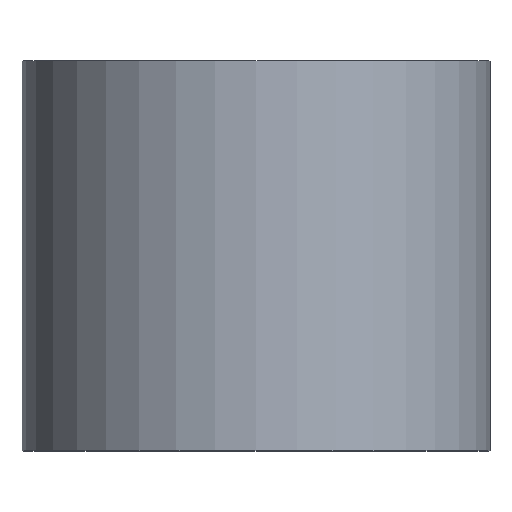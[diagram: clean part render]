
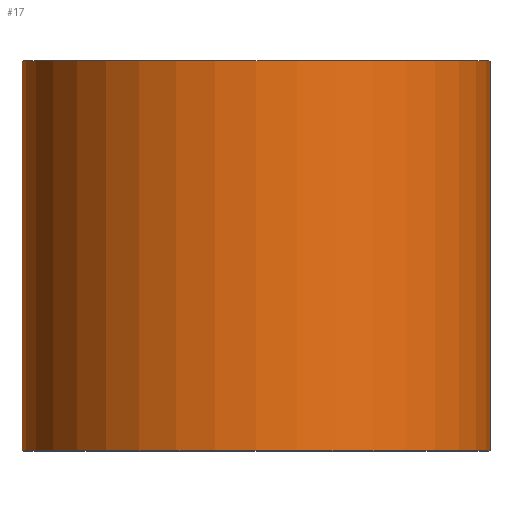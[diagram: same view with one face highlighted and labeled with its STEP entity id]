
A CAD part, top view. The second image highlights one B-rep face of the part: STEP entity #17.
In plain terms, the highlighted cylindrical face has radius 6 mm (diameter 12 mm), a partial arc.
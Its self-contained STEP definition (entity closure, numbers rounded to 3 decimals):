
#2 = CARTESIAN_POINT ( 'NONE',  ( 0., 10., 0. ) ) ;
#6 = ORIENTED_EDGE ( 'NONE', *, *, #196, .F. ) ;
#13 = ORIENTED_EDGE ( 'NONE', *, *, #263, .T. ) ;
#17 = ADVANCED_FACE ( 'NONE', ( #224 ), #292, .T. ) ;
#28 = DIRECTION ( 'NONE',  ( 0., 1., 0. ) ) ;
#31 = ORIENTED_EDGE ( 'NONE', *, *, #114, .F. ) ;
#37 = LINE ( 'NONE', #75, #134 ) ;
#47 = DIRECTION ( 'NONE',  ( 0., 1., 0. ) ) ;
#48 = CARTESIAN_POINT ( 'NONE',  ( 6., 0., 0. ) ) ;
#71 = EDGE_CURVE ( 'NONE', #131, #122, #37, .T. ) ;
#75 = CARTESIAN_POINT ( 'NONE',  ( 6., 0., 0. ) ) ;
#77 = ORIENTED_EDGE ( 'NONE', *, *, #71, .T. ) ;
#79 = EDGE_LOOP ( 'NONE', ( #13, #77, #6, #31 ) ) ;
#91 = AXIS2_PLACEMENT_3D ( 'NONE', #113, #184, #115 ) ;
#104 = DIRECTION ( 'NONE',  ( -1., 0., 0. ) ) ;
#113 = CARTESIAN_POINT ( 'NONE',  ( 0., 0., 0. ) ) ;
#114 = EDGE_CURVE ( 'NONE', #214, #259, #297, .T. ) ;
#115 = DIRECTION ( 'NONE',  ( -1., 0., 0. ) ) ;
#122 = VERTEX_POINT ( 'NONE', #177 ) ;
#124 = CARTESIAN_POINT ( 'NONE',  ( 0., 0., 0. ) ) ;
#131 = VERTEX_POINT ( 'NONE', #48 ) ;
#134 = VECTOR ( 'NONE', #28, 1000. ) ;
#141 = DIRECTION ( 'NONE',  ( 0., 1., 0. ) ) ;
#162 = VECTOR ( 'NONE', #202, 1000. ) ;
#177 = CARTESIAN_POINT ( 'NONE',  ( 6., 10., 0. ) ) ;
#179 = CARTESIAN_POINT ( 'NONE',  ( -6., 0., 0. ) ) ;
#184 = DIRECTION ( 'NONE',  ( 0., 1., 0. ) ) ;
#187 = DIRECTION ( 'NONE',  ( -1., 0., 0. ) ) ;
#195 = CARTESIAN_POINT ( 'NONE',  ( -6., 0., 0. ) ) ;
#196 = EDGE_CURVE ( 'NONE', #259, #122, #240, .T. ) ;
#202 = DIRECTION ( 'NONE',  ( 0., 1., 0. ) ) ;
#214 = VERTEX_POINT ( 'NONE', #179 ) ;
#224 = FACE_OUTER_BOUND ( 'NONE', #79, .T. ) ;
#236 = CIRCLE ( 'NONE', #91, 6. ) ;
#240 = CIRCLE ( 'NONE', #268, 6. ) ;
#244 = AXIS2_PLACEMENT_3D ( 'NONE', #124, #47, #104 ) ;
#257 = CARTESIAN_POINT ( 'NONE',  ( -6., 10., 0. ) ) ;
#259 = VERTEX_POINT ( 'NONE', #257 ) ;
#263 = EDGE_CURVE ( 'NONE', #214, #131, #236, .T. ) ;
#268 = AXIS2_PLACEMENT_3D ( 'NONE', #2, #141, #187 ) ;
#292 = CYLINDRICAL_SURFACE ( 'NONE', #244, 6. ) ;
#297 = LINE ( 'NONE', #195, #162 ) ;
